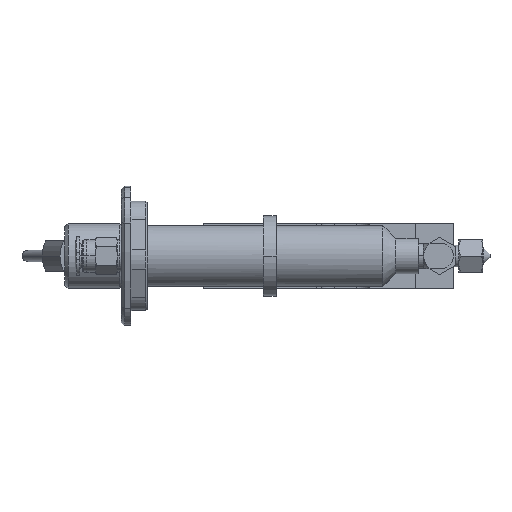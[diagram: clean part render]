
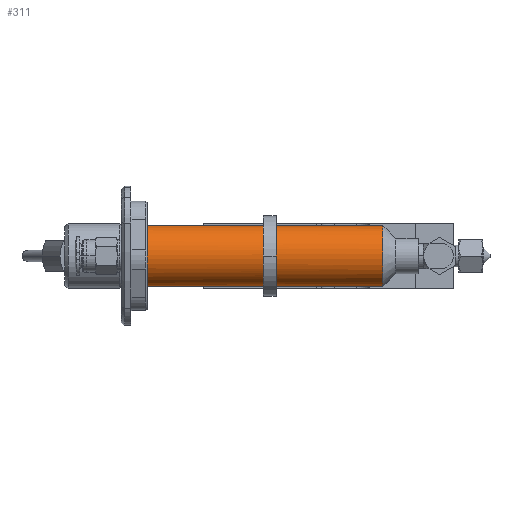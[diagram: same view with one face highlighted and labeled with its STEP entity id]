
A CAD part, left-side view. The second image highlights one B-rep face of the part: STEP entity #311.
In plain terms, the highlighted cylindrical face has radius 9.5 mm (diameter 19 mm), a partial arc.
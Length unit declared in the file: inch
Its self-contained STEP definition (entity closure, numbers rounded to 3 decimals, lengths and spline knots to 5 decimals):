
#311 = ADVANCED_FACE ( 'NONE', ( #7970 ), #28372, .T. ) ;
#710 = DIRECTION ( 'NONE',  ( -0.113, 0., 0.994 ) ) ;
#1510 = VERTEX_POINT ( 'NONE', #16882 ) ;
#1617 = EDGE_CURVE ( 'NONE', #13554, #18831, #23065, .T. ) ;
#2652 = CARTESIAN_POINT ( 'NONE',  ( -1.45669, 0.3937, 0. ) ) ;
#3235 = EDGE_CURVE ( 'NONE', #14690, #13554, #35359, .T. ) ;
#7015 = VECTOR ( 'NONE', #15402, 39.37008 ) ;
#7248 = AXIS2_PLACEMENT_3D ( 'NONE', #27072, #16282, #10307 ) ;
#7593 = AXIS2_PLACEMENT_3D ( 'NONE', #34184, #20220, #17201 ) ;
#7970 = FACE_OUTER_BOUND ( 'NONE', #24710, .T. ) ;
#7996 = DIRECTION ( 'NONE',  ( 0., -1., 0. ) ) ;
#9715 = ORIENTED_EDGE ( 'NONE', *, *, #12271, .F. ) ;
#9789 = CARTESIAN_POINT ( 'NONE',  ( -1.4144, -0.03937, -0.37162 ) ) ;
#10307 = DIRECTION ( 'NONE',  ( -0.113, 0., 0.994 ) ) ;
#12184 = ORIENTED_EDGE ( 'NONE', *, *, #3235, .T. ) ;
#12271 = EDGE_CURVE ( 'NONE', #32764, #31090, #14173, .T. ) ;
#12811 = CIRCLE ( 'NONE', #34374, 0.37402 ) ;
#13156 = EDGE_CURVE ( 'NONE', #1510, #31090, #12811, .T. ) ;
#13554 = VERTEX_POINT ( 'NONE', #19888 ) ;
#13663 = DIRECTION ( 'NONE',  ( -0.113, 0., 0.994 ) ) ;
#14173 = LINE ( 'NONE', #29666, #7015 ) ;
#14690 = VERTEX_POINT ( 'NONE', #29174 ) ;
#14817 = AXIS2_PLACEMENT_3D ( 'NONE', #16762, #19904, #13663 ) ;
#14890 = EDGE_CURVE ( 'NONE', #18831, #1510, #22966, .T. ) ;
#15402 = DIRECTION ( 'NONE',  ( 0., -1., 0. ) ) ;
#15769 = CARTESIAN_POINT ( 'NONE',  ( -1.49898, 3.26772, 0.37162 ) ) ;
#16282 = DIRECTION ( 'NONE',  ( 0., -1., 0. ) ) ;
#16733 = AXIS2_PLACEMENT_3D ( 'NONE', #30830, #7996, #36398 ) ;
#16762 = CARTESIAN_POINT ( 'NONE',  ( -1.45669, 3.26772, 0. ) ) ;
#16882 = CARTESIAN_POINT ( 'NONE',  ( -1.4144, 0.3937, -0.37162 ) ) ;
#17187 = ORIENTED_EDGE ( 'NONE', *, *, #13156, .T. ) ;
#17201 = DIRECTION ( 'NONE',  ( -0.113, 0., 0.994 ) ) ;
#18831 = VERTEX_POINT ( 'NONE', #22057 ) ;
#19888 = CARTESIAN_POINT ( 'NONE',  ( -1.79851, 3.26772, -0.15183 ) ) ;
#19904 = DIRECTION ( 'NONE',  ( 0., -1., 0. ) ) ;
#20220 = DIRECTION ( 'NONE',  ( 0., -1., 0. ) ) ;
#20486 = CIRCLE ( 'NONE', #7593, 0.37402 ) ;
#21000 = DIRECTION ( 'NONE',  ( 0., -1., 0. ) ) ;
#22057 = CARTESIAN_POINT ( 'NONE',  ( -1.4144, 3.26772, -0.37162 ) ) ;
#22084 = VECTOR ( 'NONE', #21000, 39.37008 ) ;
#22669 = ORIENTED_EDGE ( 'NONE', *, *, #14890, .T. ) ;
#22966 = LINE ( 'NONE', #9789, #22084 ) ;
#23065 = CIRCLE ( 'NONE', #14817, 0.37402 ) ;
#24710 = EDGE_LOOP ( 'NONE', ( #33992, #22669, #17187, #9715, #27835, #12184 ) ) ;
#25480 = EDGE_CURVE ( 'NONE', #32764, #14690, #20486, .T. ) ;
#26194 = DIRECTION ( 'NONE',  ( 0., 1., 0. ) ) ;
#27072 = CARTESIAN_POINT ( 'NONE',  ( -1.45669, 3.26772, 0. ) ) ;
#27835 = ORIENTED_EDGE ( 'NONE', *, *, #25480, .T. ) ;
#28372 = CYLINDRICAL_SURFACE ( 'NONE', #16733, 0.37402 ) ;
#29174 = CARTESIAN_POINT ( 'NONE',  ( -1.82388, 3.26772, 0.07114 ) ) ;
#29666 = CARTESIAN_POINT ( 'NONE',  ( -1.49898, -0.03937, 0.37162 ) ) ;
#30830 = CARTESIAN_POINT ( 'NONE',  ( -1.45669, -0.03937, 0. ) ) ;
#31090 = VERTEX_POINT ( 'NONE', #32903 ) ;
#32764 = VERTEX_POINT ( 'NONE', #15769 ) ;
#32903 = CARTESIAN_POINT ( 'NONE',  ( -1.49898, 0.3937, 0.37162 ) ) ;
#33992 = ORIENTED_EDGE ( 'NONE', *, *, #1617, .T. ) ;
#34184 = CARTESIAN_POINT ( 'NONE',  ( -1.45669, 3.26772, 0. ) ) ;
#34374 = AXIS2_PLACEMENT_3D ( 'NONE', #2652, #26194, #710 ) ;
#35359 = CIRCLE ( 'NONE', #7248, 0.37402 ) ;
#36398 = DIRECTION ( 'NONE',  ( -0.113, 0., 0.994 ) ) ;
